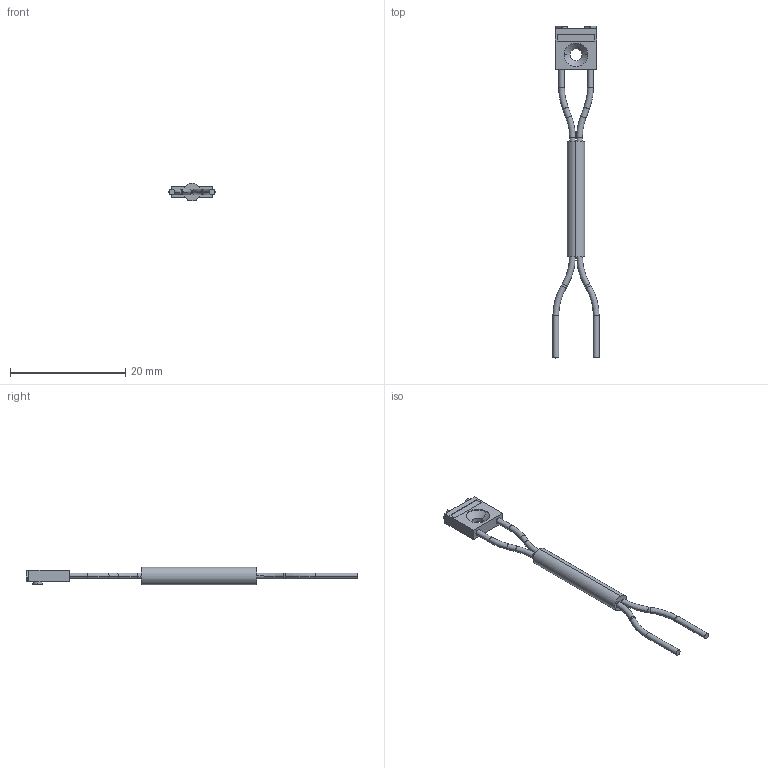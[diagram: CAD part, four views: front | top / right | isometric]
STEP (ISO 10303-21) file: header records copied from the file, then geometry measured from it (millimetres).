
FILE_DESCRIPTION (( 'STEP AP203' ), '1' );
FILE_NAME ('FD-WL48.STEP', '2005-10-26T08:19:03', ( '' ), ( '' ), 'SwSTEP 2.0', 'SolidWorks 2004073', '' );
FILE_SCHEMA (( 'CONFIG_CONTROL_DESIGN' ));
Length unit declared in the file: millimetre
Products named in the file (1): FD-WL48
Bounding box: 8 x 57.5 x 3 mm (x, y, z)
Volume: 279.8 mm3; surface area: 565.4 mm2
Topology: 1 solids, 1 shells, 86 faces, 194 edges, 116 vertices
Faces by surface type: plane 40, cylinder 28, torus 16, cone 2
Entity records: 2483 total; most frequent: DIRECTION 436, CARTESIAN_POINT 433, ORIENTED_EDGE 388, EDGE_CURVE 194, AXIS2_PLACEMENT_3D 159, LINE 118, VECTOR 118, VERTEX_POINT 116
